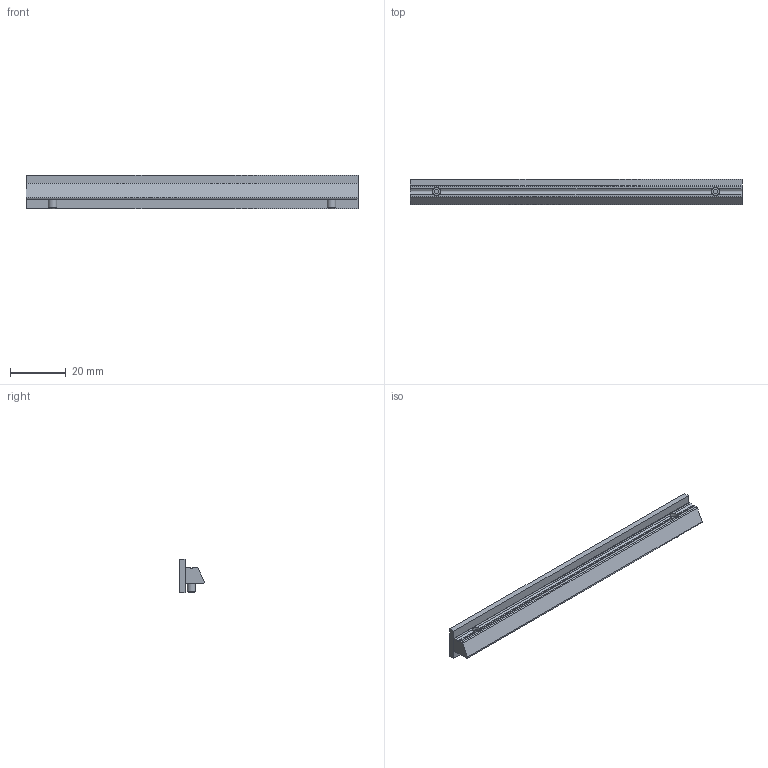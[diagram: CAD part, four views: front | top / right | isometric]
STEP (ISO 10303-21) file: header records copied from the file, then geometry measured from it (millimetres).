
FILE_DESCRIPTION(('STEP AP214'),'1');
FILE_NAME('RS2N-120.stp','2017-07-25T07:07:36',(' '),(' '),'Spatial InterOp 3D',' ',' ');
FILE_SCHEMA(('automotive_design'));
Length unit declared in the file: millimetre
Products named in the file (5): RS2N-120; R02S-119; R05N-L120
Assembly tree (5 placements, depth 3):
  RS2N-120
    R02S-119
    R05N-L120
      R05N-L120
      (unnamed)  x2
Bounding box: 119 x 8.99 x 12 mm (x, y, z)
Volume: 6818.4 mm3; surface area: 6470.4 mm2
Topology: 4 solids, 4 shells, 52 faces, 128 edges, 84 vertices
Faces by surface type: plane 37, cylinder 11, cone 4
Full cylindrical faces by diameter (mm): 3 x4
Entity records: 1638 total; most frequent: CARTESIAN_POINT 229, DIRECTION 214, ORIENTED_EDGE 192, EDGE_CURVE 96, AXIS2_PLACEMENT_3D 75, VERTEX_POINT 66, LINE 64, VECTOR 64
